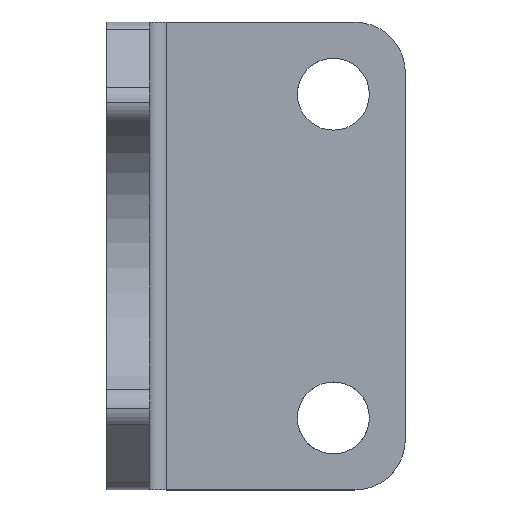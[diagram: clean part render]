
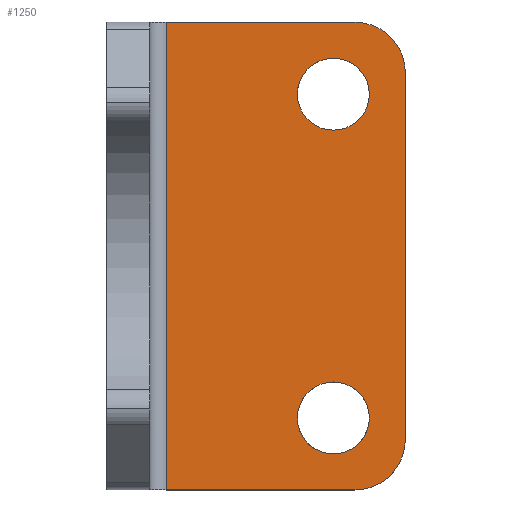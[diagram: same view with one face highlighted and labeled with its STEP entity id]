
A CAD part, top view. The second image highlights one B-rep face of the part: STEP entity #1250.
In plain terms, the highlighted planar face has unit normal (0, 0, 1).
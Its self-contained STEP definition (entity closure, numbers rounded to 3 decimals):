
#763=CARTESIAN_POINT('Vertex',(8.25,32.5,0.)) ;
#789=CARTESIAN_POINT('Vertex',(8.25,-32.5,0.)) ;
#844=CARTESIAN_POINT('Vertex',(26.5,22.5,0.)) ;
#847=CARTESIAN_POINT('Axis2P3D Location',(31.5,22.5,0.)) ;
#851=CARTESIAN_POINT('Vertex',(31.5,17.5,0.)) ;
#871=CARTESIAN_POINT('Axis2P3D Location',(31.5,22.5,0.)) ;
#875=CARTESIAN_POINT('Vertex',(31.5,27.5,0.)) ;
#908=CARTESIAN_POINT('Vertex',(36.5,22.5,0.)) ;
#911=CARTESIAN_POINT('Axis2P3D Location',(31.5,22.5,0.)) ;
#923=CARTESIAN_POINT('Axis2P3D Location',(31.5,22.5,0.)) ;
#945=CARTESIAN_POINT('Line Origine',(8.25,0.,0.)) ;
#975=CARTESIAN_POINT('Vertex',(41.5,25.5,0.)) ;
#978=CARTESIAN_POINT('Line Origine',(41.5,0.,0.)) ;
#982=CARTESIAN_POINT('Vertex',(41.5,-25.5,0.)) ;
#1002=CARTESIAN_POINT('Line Origine',(21.375,32.5,0.)) ;
#1006=CARTESIAN_POINT('Vertex',(34.5,32.5,0.)) ;
#1044=CARTESIAN_POINT('Vertex',(34.5,-32.5,0.)) ;
#1047=CARTESIAN_POINT('Line Origine',(21.375,-32.5,0.)) ;
#1069=CARTESIAN_POINT('Axis2P3D Location',(34.5,25.5,0.)) ;
#1091=CARTESIAN_POINT('Axis2P3D Location',(34.5,-25.5,0.)) ;
#1108=CARTESIAN_POINT('Axis2P3D Location',(31.5,-22.5,0.)) ;
#1112=CARTESIAN_POINT('Vertex',(31.5,-17.5,0.)) ;
#1114=CARTESIAN_POINT('Vertex',(26.5,-22.5,0.)) ;
#1192=CARTESIAN_POINT('Vertex',(36.5,-22.5,0.)) ;
#1195=CARTESIAN_POINT('Axis2P3D Location',(31.5,-22.5,0.)) ;
#1207=CARTESIAN_POINT('Axis2P3D Location',(0.,0.,0.)) ;
#1221=CARTESIAN_POINT('Control Point',(31.5,-27.5,0.)) ;
#1222=CARTESIAN_POINT('Control Point',(33.071,-27.5,0.)) ;
#1223=CARTESIAN_POINT('Control Point',(34.643,-26.885,0.)) ;
#1224=CARTESIAN_POINT('Control Point',(35.885,-25.643,0.)) ;
#1225=CARTESIAN_POINT('Control Point',(36.5,-24.071,0.)) ;
#1226=CARTESIAN_POINT('Control Point',(36.5,-22.5,0.)) ;
#1227=CARTESIAN_POINT('Vertex',(31.5,-27.5,0.)) ;
#1231=CARTESIAN_POINT('Control Point',(26.5,-22.5,0.)) ;
#1232=CARTESIAN_POINT('Control Point',(26.5,-24.071,0.)) ;
#1233=CARTESIAN_POINT('Control Point',(27.115,-25.643,0.)) ;
#1234=CARTESIAN_POINT('Control Point',(28.357,-26.885,0.)) ;
#1235=CARTESIAN_POINT('Control Point',(29.929,-27.5,0.)) ;
#1236=CARTESIAN_POINT('Control Point',(31.5,-27.5,0.)) ;
#848=DIRECTION('Axis2P3D Direction',(0.,0.,1.)) ;
#872=DIRECTION('Axis2P3D Direction',(0.,0.,1.)) ;
#912=DIRECTION('Axis2P3D Direction',(0.,0.,1.)) ;
#924=DIRECTION('Axis2P3D Direction',(0.,0.,1.)) ;
#946=DIRECTION('Vector Direction',(0.,1.,0.)) ;
#979=DIRECTION('Vector Direction',(0.,1.,0.)) ;
#1003=DIRECTION('Vector Direction',(-1.,0.,0.)) ;
#1048=DIRECTION('Vector Direction',(-1.,0.,0.)) ;
#1070=DIRECTION('Axis2P3D Direction',(0.,0.,1.)) ;
#1092=DIRECTION('Axis2P3D Direction',(0.,0.,1.)) ;
#1109=DIRECTION('Axis2P3D Direction',(0.,0.,1.)) ;
#1196=DIRECTION('Axis2P3D Direction',(0.,0.,1.)) ;
#1208=DIRECTION('Axis2P3D Direction',(0.,0.,1.)) ;
#1209=DIRECTION('Axis2P3D XDirection',(0.,-1.,0.)) ;
#849=AXIS2_PLACEMENT_3D('Circle Axis2P3D',#847,#848,$) ;
#873=AXIS2_PLACEMENT_3D('Circle Axis2P3D',#871,#872,$) ;
#913=AXIS2_PLACEMENT_3D('Circle Axis2P3D',#911,#912,$) ;
#925=AXIS2_PLACEMENT_3D('Circle Axis2P3D',#923,#924,$) ;
#1071=AXIS2_PLACEMENT_3D('Circle Axis2P3D',#1069,#1070,$) ;
#1093=AXIS2_PLACEMENT_3D('Circle Axis2P3D',#1091,#1092,$) ;
#1110=AXIS2_PLACEMENT_3D('Circle Axis2P3D',#1108,#1109,$) ;
#1197=AXIS2_PLACEMENT_3D('Circle Axis2P3D',#1195,#1196,$) ;
#1210=AXIS2_PLACEMENT_3D('Plane Axis2P3D',#1207,#1208,#1209) ;
#1213=ORIENTED_EDGE('',*,*,#949,.F.) ;
#1214=ORIENTED_EDGE('',*,*,#1051,.F.) ;
#1215=ORIENTED_EDGE('',*,*,#1095,.T.) ;
#1216=ORIENTED_EDGE('',*,*,#984,.T.) ;
#1217=ORIENTED_EDGE('',*,*,#1073,.T.) ;
#1218=ORIENTED_EDGE('',*,*,#1008,.T.) ;
#1239=ORIENTED_EDGE('',*,*,#1229,.F.) ;
#1240=ORIENTED_EDGE('',*,*,#1237,.F.) ;
#1241=ORIENTED_EDGE('',*,*,#1116,.F.) ;
#1242=ORIENTED_EDGE('',*,*,#1199,.F.) ;
#1245=ORIENTED_EDGE('',*,*,#927,.F.) ;
#1246=ORIENTED_EDGE('',*,*,#853,.F.) ;
#1247=ORIENTED_EDGE('',*,*,#877,.F.) ;
#1248=ORIENTED_EDGE('',*,*,#915,.F.) ;
#1243=FACE_BOUND('',#1238,.T.) ;
#1249=FACE_BOUND('',#1244,.T.) ;
#947=VECTOR('Line Direction',#946,1.) ;
#980=VECTOR('Line Direction',#979,1.) ;
#1004=VECTOR('Line Direction',#1003,1.) ;
#1049=VECTOR('Line Direction',#1048,1.) ;
#1250=ADVANCED_FACE('PartBody',(#1219,#1243,#1249),#1211,.T.) ;
#1220=B_SPLINE_CURVE_WITH_KNOTS('',5,(#1221,#1222,#1223,#1224,#1225,#1226),.UNSPECIFIED.,.F.,.U.,(6,6),(31.416,39.27),.UNSPECIFIED.) ;
#1230=B_SPLINE_CURVE_WITH_KNOTS('',5,(#1231,#1232,#1233,#1234,#1235,#1236),.UNSPECIFIED.,.F.,.U.,(6,6),(23.562,31.416),.UNSPECIFIED.) ;
#850=CIRCLE('generated circle',#849,5.) ;
#874=CIRCLE('generated circle',#873,5.) ;
#914=CIRCLE('generated circle',#913,5.) ;
#926=CIRCLE('generated circle',#925,5.) ;
#1072=CIRCLE('generated circle',#1071,7.) ;
#1094=CIRCLE('generated circle',#1093,7.) ;
#1111=CIRCLE('generated circle',#1110,5.) ;
#1198=CIRCLE('generated circle',#1197,5.) ;
#853=EDGE_CURVE('',#845,#852,#850,.T.) ;
#877=EDGE_CURVE('',#876,#845,#874,.T.) ;
#915=EDGE_CURVE('',#909,#876,#914,.T.) ;
#927=EDGE_CURVE('',#852,#909,#926,.T.) ;
#949=EDGE_CURVE('',#790,#764,#948,.T.) ;
#984=EDGE_CURVE('',#983,#976,#981,.T.) ;
#1008=EDGE_CURVE('',#1007,#764,#1005,.T.) ;
#1051=EDGE_CURVE('',#1045,#790,#1050,.T.) ;
#1073=EDGE_CURVE('',#976,#1007,#1072,.T.) ;
#1095=EDGE_CURVE('',#1045,#983,#1094,.T.) ;
#1116=EDGE_CURVE('',#1113,#1115,#1111,.T.) ;
#1199=EDGE_CURVE('',#1193,#1113,#1198,.T.) ;
#1229=EDGE_CURVE('',#1228,#1193,#1220,.T.) ;
#1237=EDGE_CURVE('',#1115,#1228,#1230,.T.) ;
#1212=EDGE_LOOP('',(#1213,#1214,#1215,#1216,#1217,#1218)) ;
#1238=EDGE_LOOP('',(#1239,#1240,#1241,#1242)) ;
#1244=EDGE_LOOP('',(#1245,#1246,#1247,#1248)) ;
#1219=FACE_OUTER_BOUND('',#1212,.T.) ;
#948=LINE('Line',#945,#947) ;
#981=LINE('Line',#978,#980) ;
#1005=LINE('Line',#1002,#1004) ;
#1050=LINE('Line',#1047,#1049) ;
#1211=PLANE('',#1210) ;
#764=VERTEX_POINT('',#763) ;
#790=VERTEX_POINT('',#789) ;
#845=VERTEX_POINT('',#844) ;
#852=VERTEX_POINT('',#851) ;
#876=VERTEX_POINT('',#875) ;
#909=VERTEX_POINT('',#908) ;
#976=VERTEX_POINT('',#975) ;
#983=VERTEX_POINT('',#982) ;
#1007=VERTEX_POINT('',#1006) ;
#1045=VERTEX_POINT('',#1044) ;
#1113=VERTEX_POINT('',#1112) ;
#1115=VERTEX_POINT('',#1114) ;
#1193=VERTEX_POINT('',#1192) ;
#1228=VERTEX_POINT('',#1227) ;
